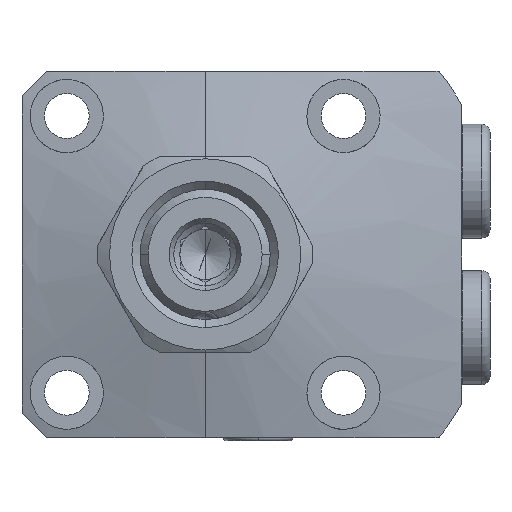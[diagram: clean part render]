
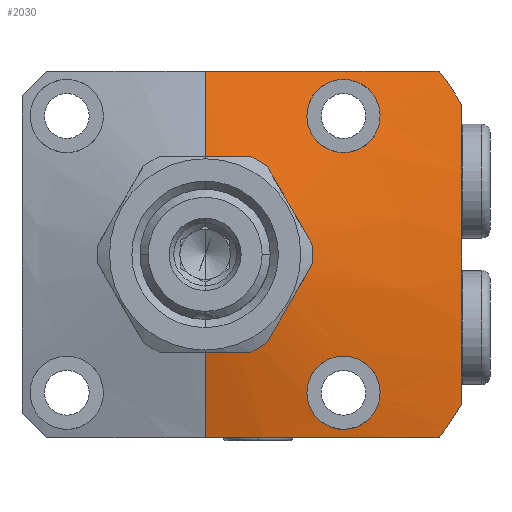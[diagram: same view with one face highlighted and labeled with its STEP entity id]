
A CAD part, left-side view. The second image highlights one B-rep face of the part: STEP entity #2030.
In plain terms, the highlighted conical face has half-angle 75 degrees and reference radius 12 mm.
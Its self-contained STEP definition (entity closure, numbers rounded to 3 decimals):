
#957=B_SPLINE_CURVE_WITH_KNOTS('',3,(#8688,#8689,#8690,#8691,#8692,#8693,
#8694,#8695,#8696,#8697),.UNSPECIFIED.,.F.,.F.,(4,2,2,2,4),(0.,0.25,0.5,
0.75,1.),.UNSPECIFIED.);
#958=B_SPLINE_CURVE_WITH_KNOTS('',3,(#8706,#8707,#8708,#8709,#8710,#8711,
#8712,#8713,#8714,#8715),.UNSPECIFIED.,.F.,.F.,(4,2,2,2,4),(0.,0.25,0.5,
0.75,1.),.UNSPECIFIED.);
#967=B_SPLINE_CURVE_WITH_KNOTS('',3,(#9079,#9080,#9081,#9082),
 .UNSPECIFIED.,.F.,.F.,(4,4),(0.,1.),.UNSPECIFIED.);
#968=B_SPLINE_CURVE_WITH_KNOTS('',3,(#9083,#9084,#9085,#9086,#9087),
 .UNSPECIFIED.,.F.,.F.,(4,1,4),(0.,0.5,1.),.UNSPECIFIED.);
#969=B_SPLINE_CURVE_WITH_KNOTS('',3,(#9088,#9089,#9090,#9091),
 .UNSPECIFIED.,.F.,.F.,(4,4),(0.,1.),.UNSPECIFIED.);
#970=B_SPLINE_CURVE_WITH_KNOTS('',3,(#9092,#9093,#9094,#9095,#9096,#9097,
#9098,#9099,#9100,#9101),.UNSPECIFIED.,.F.,.F.,(4,2,2,2,4),(0.,0.25,0.5,
0.75,1.),.UNSPECIFIED.);
#971=B_SPLINE_CURVE_WITH_KNOTS('',3,(#9102,#9103,#9104,#9105,#9106,#9107,
#9108,#9109,#9110,#9111),.UNSPECIFIED.,.F.,.F.,(4,2,2,2,4),(0.,0.25,0.5,
0.75,1.),.UNSPECIFIED.);
#1031=CONICAL_SURFACE('',#5967,12.,75.);
#1263=FACE_BOUND('',#2669,.T.);
#1264=FACE_BOUND('',#2670,.T.);
#1265=FACE_BOUND('',#2671,.T.);
#1508=LINE('',#8795,#1737);
#1509=LINE('',#8824,#1738);
#1737=VECTOR('',#6937,1.);
#1738=VECTOR('',#6938,1.);
#2030=ADVANCED_FACE('',(#1263,#1264,#1265),#1031,.T.);
#2669=EDGE_LOOP('',(#3636,#3637,#3638,#3639,#3640,#3641,#3642,#3643));
#2670=EDGE_LOOP('',(#3644,#3645));
#2671=EDGE_LOOP('',(#3646,#3647));
#3636=ORIENTED_EDGE('',*,*,#4858,.T.);
#3637=ORIENTED_EDGE('',*,*,#4986,.F.);
#3638=ORIENTED_EDGE('',*,*,#4864,.F.);
#3639=ORIENTED_EDGE('',*,*,#4987,.F.);
#3640=ORIENTED_EDGE('',*,*,#4985,.T.);
#3641=ORIENTED_EDGE('',*,*,#4988,.F.);
#3642=ORIENTED_EDGE('',*,*,#4950,.T.);
#3643=ORIENTED_EDGE('',*,*,#4989,.F.);
#3644=ORIENTED_EDGE('',*,*,#4990,.F.);
#3645=ORIENTED_EDGE('',*,*,#4823,.F.);
#3646=ORIENTED_EDGE('',*,*,#4991,.F.);
#3647=ORIENTED_EDGE('',*,*,#4827,.F.);
#4311=VERTEX_POINT('',#8687);
#4312=VERTEX_POINT('',#8698);
#4315=VERTEX_POINT('',#8705);
#4316=VERTEX_POINT('',#8716);
#4337=VERTEX_POINT('',#8793);
#4338=VERTEX_POINT('',#8794);
#4339=VERTEX_POINT('',#8796);
#4344=VERTEX_POINT('',#8823);
#4407=VERTEX_POINT('',#8997);
#4409=VERTEX_POINT('',#9000);
#4418=VERTEX_POINT('',#9073);
#4419=VERTEX_POINT('',#9075);
#4823=EDGE_CURVE('',#4311,#4312,#957,.T.);
#4827=EDGE_CURVE('',#4315,#4316,#958,.T.);
#4858=EDGE_CURVE('',#4339,#4337,#1508,.T.);
#4864=EDGE_CURVE('',#4344,#4338,#1509,.T.);
#4950=EDGE_CURVE('',#4409,#4407,#5399,.T.);
#4985=EDGE_CURVE('',#4418,#4419,#5423,.T.);
#4986=EDGE_CURVE('',#4338,#4337,#5424,.T.);
#4987=EDGE_CURVE('',#4418,#4344,#967,.T.);
#4988=EDGE_CURVE('',#4409,#4419,#968,.T.);
#4989=EDGE_CURVE('',#4339,#4407,#969,.T.);
#4990=EDGE_CURVE('',#4312,#4311,#970,.T.);
#4991=EDGE_CURVE('',#4316,#4315,#971,.T.);
#5399=CIRCLE('',#5915,36.5);
#5423=CIRCLE('',#5964,36.5);
#5424=CIRCLE('',#5966,12.);
#5915=AXIS2_PLACEMENT_3D('',#8999,#7128,#7129);
#5964=AXIS2_PLACEMENT_3D('',#9076,#7236,#7237);
#5966=AXIS2_PLACEMENT_3D('',#9078,#7240,#7241);
#5967=AXIS2_PLACEMENT_3D('',#9112,#7242,#7243);
#6937=DIRECTION('',(-0.259,0.,-0.966));
#6938=DIRECTION('',(-0.259,0.,0.966));
#7128=DIRECTION('',(-1.,0.,0.));
#7129=DIRECTION('',(0.,0.,1.));
#7236=DIRECTION('',(-1.,0.,0.));
#7237=DIRECTION('',(0.,0.,1.));
#7240=DIRECTION('',(-1.,0.,0.));
#7241=DIRECTION('',(0.,0.,1.));
#7242=DIRECTION('',(1.,0.,0.));
#7243=DIRECTION('',(0.,0.,1.));
#8687=CARTESIAN_POINT('',(-20.871,-17.,-21.5));
#8688=CARTESIAN_POINT('',(-20.871,-17.,-21.5));
#8689=CARTESIAN_POINT('',(-20.673,-18.192,-21.5));
#8690=CARTESIAN_POINT('',(-20.565,-19.376,-21.003));
#8691=CARTESIAN_POINT('',(-20.57,-21.047,-19.301));
#8692=CARTESIAN_POINT('',(-20.684,-21.52,-18.101));
#8693=CARTESIAN_POINT('',(-21.085,-21.478,-15.738));
#8694=CARTESIAN_POINT('',(-21.369,-20.975,-14.593));
#8695=CARTESIAN_POINT('',(-21.982,-19.315,-12.97));
#8696=CARTESIAN_POINT('',(-22.306,-18.181,-12.5));
#8697=CARTESIAN_POINT('',(-22.561,-17.,-12.5));
#8698=CARTESIAN_POINT('',(-22.561,-17.,-12.5));
#8705=CARTESIAN_POINT('',(-22.561,-17.,12.5));
#8706=CARTESIAN_POINT('',(-22.561,-17.,12.5));
#8707=CARTESIAN_POINT('',(-22.306,-18.182,12.5));
#8708=CARTESIAN_POINT('',(-21.981,-19.318,12.973));
#8709=CARTESIAN_POINT('',(-21.37,-20.972,14.589));
#8710=CARTESIAN_POINT('',(-21.085,-21.477,15.74));
#8711=CARTESIAN_POINT('',(-20.686,-21.522,18.088));
#8712=CARTESIAN_POINT('',(-20.571,-21.054,19.292));
#8713=CARTESIAN_POINT('',(-20.565,-19.377,21.005));
#8714=CARTESIAN_POINT('',(-20.673,-18.193,21.5));
#8715=CARTESIAN_POINT('',(-20.871,-17.,21.5));
#8716=CARTESIAN_POINT('',(-20.871,-17.,21.5));
#8793=CARTESIAN_POINT('',(-25.,0.,12.));
#8794=CARTESIAN_POINT('',(-25.,0.,-12.));
#8795=CARTESIAN_POINT('',(-25.,0.,12.));
#8796=CARTESIAN_POINT('',(-22.187,0.,22.5));
#8823=CARTESIAN_POINT('',(-22.187,0.,-22.5));
#8824=CARTESIAN_POINT('',(-25.,0.,-12.));
#8997=CARTESIAN_POINT('',(-18.435,-28.74,22.5));
#8999=CARTESIAN_POINT('',(-18.435,0.,0.));
#9000=CARTESIAN_POINT('',(-18.435,-31.5,18.439));
#9073=CARTESIAN_POINT('',(-18.435,-28.74,-22.5));
#9075=CARTESIAN_POINT('',(-18.435,-31.5,-18.439));
#9076=CARTESIAN_POINT('',(-18.435,0.,0.));
#9078=CARTESIAN_POINT('',(-25.,0.,0.));
#9079=CARTESIAN_POINT('',(-18.435,-28.74,-22.5));
#9080=CARTESIAN_POINT('',(-20.436,-19.258,-22.5));
#9081=CARTESIAN_POINT('',(-22.187,-9.743,-22.5));
#9082=CARTESIAN_POINT('',(-22.187,0.,-22.5));
#9083=CARTESIAN_POINT('',(-18.435,-31.5,18.439));
#9084=CARTESIAN_POINT('',(-19.267,-31.5,12.293));
#9085=CARTESIAN_POINT('',(-20.283,-31.5,0.));
#9086=CARTESIAN_POINT('',(-19.267,-31.5,-12.293));
#9087=CARTESIAN_POINT('',(-18.435,-31.5,-18.439));
#9088=CARTESIAN_POINT('',(-22.187,0.,22.5));
#9089=CARTESIAN_POINT('',(-22.187,-9.722,22.5));
#9090=CARTESIAN_POINT('',(-20.436,-19.259,22.5));
#9091=CARTESIAN_POINT('',(-18.435,-28.74,22.5));
#9092=CARTESIAN_POINT('',(-22.561,-17.,-12.5));
#9093=CARTESIAN_POINT('',(-22.817,-15.816,-12.5));
#9094=CARTESIAN_POINT('',(-22.982,-14.633,-12.991));
#9095=CARTESIAN_POINT('',(-22.976,-12.955,-14.694));
#9096=CARTESIAN_POINT('',(-22.804,-12.483,-15.891));
#9097=CARTESIAN_POINT('',(-22.29,-12.518,-18.242));
#9098=CARTESIAN_POINT('',(-21.962,-13.008,-19.379));
#9099=CARTESIAN_POINT('',(-21.35,-14.659,-21.015));
#9100=CARTESIAN_POINT('',(-21.07,-15.805,-21.5));
#9101=CARTESIAN_POINT('',(-20.871,-17.,-21.5));
#9102=CARTESIAN_POINT('',(-20.871,-17.,21.5));
#9103=CARTESIAN_POINT('',(-21.07,-15.805,21.5));
#9104=CARTESIAN_POINT('',(-21.351,-14.656,21.012));
#9105=CARTESIAN_POINT('',(-21.961,-13.011,19.382));
#9106=CARTESIAN_POINT('',(-22.291,-12.519,18.237));
#9107=CARTESIAN_POINT('',(-22.801,-12.482,15.906));
#9108=CARTESIAN_POINT('',(-22.975,-12.947,14.706));
#9109=CARTESIAN_POINT('',(-22.983,-14.631,12.99));
#9110=CARTESIAN_POINT('',(-22.817,-15.816,12.5));
#9111=CARTESIAN_POINT('',(-22.561,-17.,12.5));
#9112=CARTESIAN_POINT('',(-25.,0.,0.));
